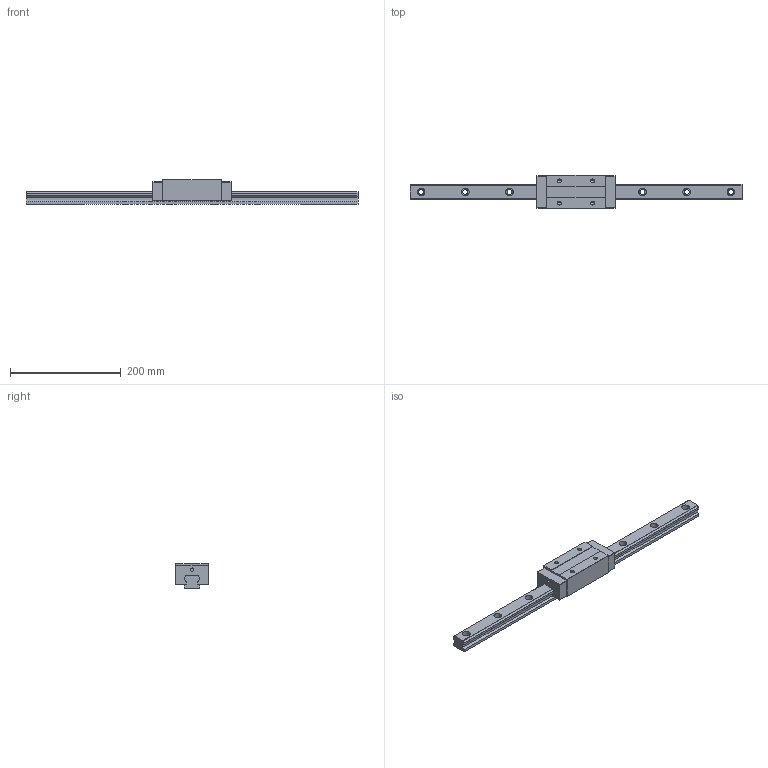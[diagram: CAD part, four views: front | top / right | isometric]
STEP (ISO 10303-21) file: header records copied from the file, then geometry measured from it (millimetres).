
FILE_DESCRIPTION (( 'STEP AP203' ), '1' );
FILE_NAME ('TRH30VE-ZN-§ï.STEP', '2023-08-30T08:49:12', ( '' ), ( '' ), 'SwSTEP 2.0', 'SolidWorks 2022', '' );
FILE_SCHEMA (( 'CONFIG_CONTROL_DESIGN' ));
Length unit declared in the file: millimetre
Products named in the file (1): TRH30VE-ZN-改
Bounding box: 600 x 60 x 45 mm (x, y, z)
Volume: 575381.6 mm3; surface area: 102988.9 mm2
Topology: 1 solids, 1 shells, 170 faces, 464 edges, 300 vertices
Faces by surface type: cylinder 80, plane 74, cone 16
Entity records: 5465 total; most frequent: DIRECTION 966, CARTESIAN_POINT 927, ORIENTED_EDGE 912, EDGE_CURVE 456, AXIS2_PLACEMENT_3D 339, VERTEX_POINT 300, VECTOR 288, LINE 288
